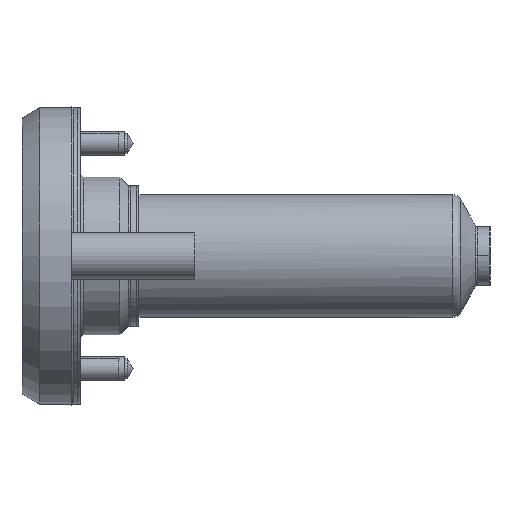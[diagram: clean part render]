
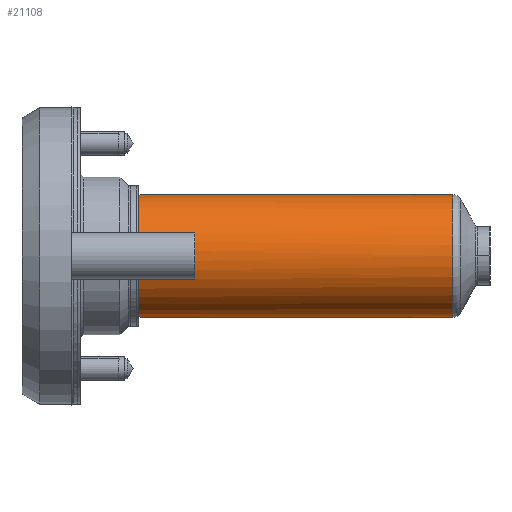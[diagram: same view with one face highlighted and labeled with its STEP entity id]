
A CAD part, left-side view. The second image highlights one B-rep face of the part: STEP entity #21108.
In plain terms, the highlighted cylindrical face has radius 21 mm (diameter 42 mm), a partial arc.
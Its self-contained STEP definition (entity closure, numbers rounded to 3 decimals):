
#97 = CIRCLE ( 'NONE', #15900, 21. ) ;
#776 = AXIS2_PLACEMENT_3D ( 'NONE', #28406, #21573, #21708 ) ;
#1463 = VERTEX_POINT ( 'NONE', #11275 ) ;
#2336 = DIRECTION ( 'NONE',  ( 0., -1., 0. ) ) ;
#3419 = CARTESIAN_POINT ( 'NONE',  ( -19.416, -93.07, 8. ) ) ;
#3707 = CARTESIAN_POINT ( 'NONE',  ( 0., -15., 0. ) ) ;
#3955 = DIRECTION ( 'NONE',  ( 0., -1., 0. ) ) ;
#4298 = EDGE_CURVE ( 'NONE', #7506, #22271, #9165, .T. ) ;
#4455 = CARTESIAN_POINT ( 'NONE',  ( -19.416, -15., 8. ) ) ;
#4959 = EDGE_CURVE ( 'NONE', #8102, #18920, #23270, .T. ) ;
#5431 = LINE ( 'NONE', #3419, #23134 ) ;
#5480 = CARTESIAN_POINT ( 'NONE',  ( 0., -122.228, -21. ) ) ;
#5486 = ORIENTED_EDGE ( 'NONE', *, *, #7315, .T. ) ;
#5967 = VERTEX_POINT ( 'NONE', #24606 ) ;
#6326 = ORIENTED_EDGE ( 'NONE', *, *, #25167, .F. ) ;
#6725 = DIRECTION ( 'NONE',  ( 0., -1., 0. ) ) ;
#6913 = EDGE_CURVE ( 'NONE', #8102, #7506, #18538, .T. ) ;
#7315 = EDGE_CURVE ( 'NONE', #11001, #16291, #11612, .T. ) ;
#7506 = VERTEX_POINT ( 'NONE', #7530 ) ;
#7530 = CARTESIAN_POINT ( 'NONE',  ( 0., -15., -21. ) ) ;
#8046 = CARTESIAN_POINT ( 'NONE',  ( 0., -15., 0. ) ) ;
#8102 = VERTEX_POINT ( 'NONE', #21211 ) ;
#9165 = LINE ( 'NONE', #17874, #12528 ) ;
#10062 = CARTESIAN_POINT ( 'NONE',  ( -19.416, -93.07, -8. ) ) ;
#11001 = VERTEX_POINT ( 'NONE', #14643 ) ;
#11275 = CARTESIAN_POINT ( 'NONE',  ( -19.416, -34., 8. ) ) ;
#11409 = EDGE_CURVE ( 'NONE', #11001, #5967, #24726, .T. ) ;
#11612 = CIRCLE ( 'NONE', #20418, 21. ) ;
#11790 = ORIENTED_EDGE ( 'NONE', *, *, #4298, .T. ) ;
#12275 = DIRECTION ( 'NONE',  ( 0., -1., 0. ) ) ;
#12528 = VECTOR ( 'NONE', #2336, 1000. ) ;
#12532 = DIRECTION ( 'NONE',  ( 0., 0., -1. ) ) ;
#13395 = CARTESIAN_POINT ( 'NONE',  ( 0., -93.07, 21. ) ) ;
#13649 = EDGE_CURVE ( 'NONE', #18920, #1463, #97, .T. ) ;
#14486 = EDGE_LOOP ( 'NONE', ( #21180, #5486, #27313, #15582, #18600, #18639, #11790, #6326 ) ) ;
#14643 = CARTESIAN_POINT ( 'NONE',  ( 0., -15., 21. ) ) ;
#14888 = DIRECTION ( 'NONE',  ( 0., 0., -1. ) ) ;
#15582 = ORIENTED_EDGE ( 'NONE', *, *, #13649, .F. ) ;
#15900 = AXIS2_PLACEMENT_3D ( 'NONE', #20180, #27439, #20605 ) ;
#16291 = VERTEX_POINT ( 'NONE', #4455 ) ;
#16314 = DIRECTION ( 'NONE',  ( 0., -1., 0. ) ) ;
#17342 = CYLINDRICAL_SURFACE ( 'NONE', #776, 21. ) ;
#17489 = AXIS2_PLACEMENT_3D ( 'NONE', #20239, #16314, #18482 ) ;
#17874 = CARTESIAN_POINT ( 'NONE',  ( 0., -93.07, -21. ) ) ;
#18482 = DIRECTION ( 'NONE',  ( 0., 0., -1. ) ) ;
#18538 = CIRCLE ( 'NONE', #20400, 21. ) ;
#18600 = ORIENTED_EDGE ( 'NONE', *, *, #4959, .F. ) ;
#18639 = ORIENTED_EDGE ( 'NONE', *, *, #6913, .T. ) ;
#18920 = VERTEX_POINT ( 'NONE', #20837 ) ;
#20180 = CARTESIAN_POINT ( 'NONE',  ( 0., -34., 0. ) ) ;
#20239 = CARTESIAN_POINT ( 'NONE',  ( 0., -122.228, 0. ) ) ;
#20400 = AXIS2_PLACEMENT_3D ( 'NONE', #3707, #12275, #14888 ) ;
#20418 = AXIS2_PLACEMENT_3D ( 'NONE', #8046, #3955, #12532 ) ;
#20605 = DIRECTION ( 'NONE',  ( 0., 0., 1. ) ) ;
#20837 = CARTESIAN_POINT ( 'NONE',  ( -19.416, -34., -8. ) ) ;
#21108 = ADVANCED_FACE ( 'NONE', ( #28255 ), #17342, .T. ) ;
#21180 = ORIENTED_EDGE ( 'NONE', *, *, #11409, .F. ) ;
#21211 = CARTESIAN_POINT ( 'NONE',  ( -19.416, -15., -8. ) ) ;
#21573 = DIRECTION ( 'NONE',  ( 0., -1., 0. ) ) ;
#21708 = DIRECTION ( 'NONE',  ( 0., 0., -1. ) ) ;
#22271 = VERTEX_POINT ( 'NONE', #5480 ) ;
#23134 = VECTOR ( 'NONE', #28254, 1000. ) ;
#23270 = LINE ( 'NONE', #10062, #26846 ) ;
#24606 = CARTESIAN_POINT ( 'NONE',  ( 0., -122.228, 21. ) ) ;
#24726 = LINE ( 'NONE', #13395, #26024 ) ;
#25167 = EDGE_CURVE ( 'NONE', #5967, #22271, #25843, .T. ) ;
#25843 = CIRCLE ( 'NONE', #17489, 21. ) ;
#26024 = VECTOR ( 'NONE', #6725, 1000. ) ;
#26846 = VECTOR ( 'NONE', #27785, 1000. ) ;
#27313 = ORIENTED_EDGE ( 'NONE', *, *, #27959, .T. ) ;
#27439 = DIRECTION ( 'NONE',  ( 0., 1., 0. ) ) ;
#27785 = DIRECTION ( 'NONE',  ( 0., -1., 0. ) ) ;
#27959 = EDGE_CURVE ( 'NONE', #16291, #1463, #5431, .T. ) ;
#28254 = DIRECTION ( 'NONE',  ( 0., -1., 0. ) ) ;
#28255 = FACE_OUTER_BOUND ( 'NONE', #14486, .T. ) ;
#28406 = CARTESIAN_POINT ( 'NONE',  ( 0., -93.07, 0. ) ) ;
